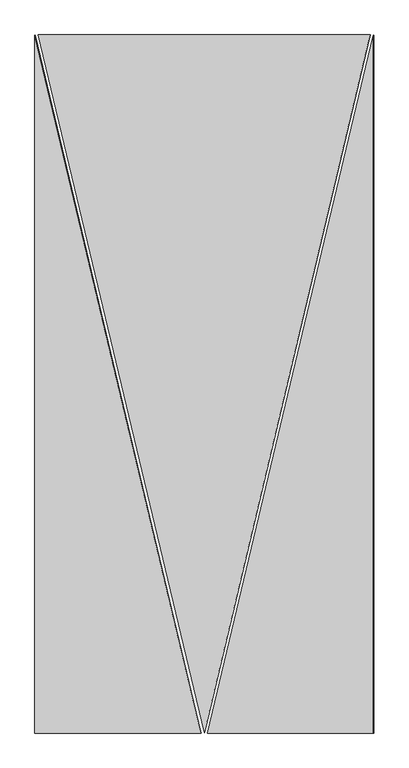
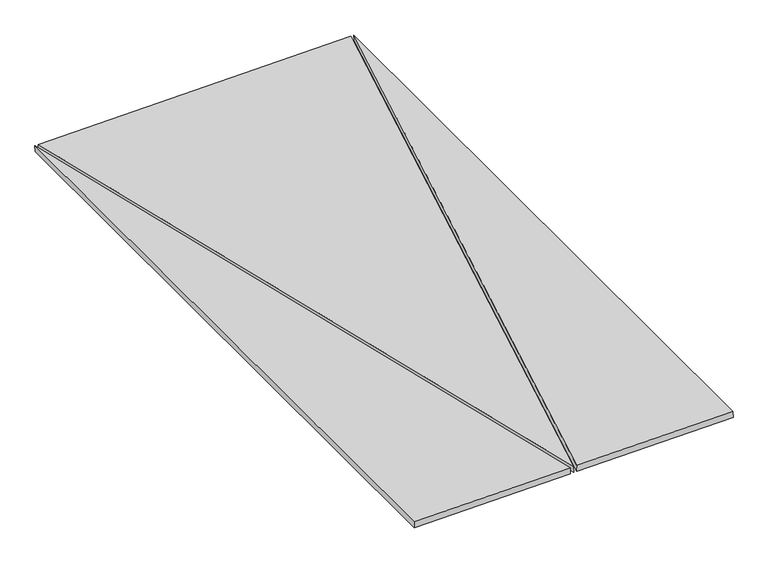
"""IFC4 building model written with IfcOpenShell, lengths in millimetres: proxy geometry, panel sufitowy 6 : panel sufitowy 6."""

from ifc_helpers import new_model, si_unit, frame, origin, place, context, project, spatial, polyline, outline, extrude, source, transform, mapped, element, save


def generic_models_dc20eb05(model_context):
    return source(origin(), model_context, "Body", "SweptSolid", [
        extrude(outline(polyline([(-900.9098917, -1e-07), (1235.4098448, 0.0), (1006.1909889, -962.7191946), (-900.9098917, -1e-07)])), frame((551.8753506, -1457.4151922, 1194.2927704), z_axis=(-0.017452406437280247, 0.0, 0.9998476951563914), x_axis=(-0.23158525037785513, 0.9728062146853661, -0.0040423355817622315)), (0.0, 0.0, 1.0), 20.0),
        extrude(outline(polyline([(-127.5, 0.0), (-622.5, 0.0), (-127.5, 2079.0), (-127.5, 0.0)])), frame((1392.6369636, -2335.0, 1208.968319), z_axis=(-0.01745240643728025, 0.0, 0.9998476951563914), x_axis=(0.9998476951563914, 0.0, 0.01745240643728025)), (0.0, 0.0, 1.0), 20.0),
        extrude(outline(polyline([(-127.5, 0.0), (-127.5, -2079.0), (-622.5, 0.0), (-127.5, 0.0)])), frame((127.8296293, -2335.0, 1186.8910248), z_axis=(-0.01745240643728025, 0.0, 0.9998476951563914), x_axis=(-0.9998476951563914, 0.0, -0.01745240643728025)), (0.0, 0.0, 1.0), 20.0),
    ])


if __name__ == "__main__":
    model = new_model("IFC4")
    model_context = context("Model", 3, world=origin())
    ifc_project = project(units=[si_unit("LENGTHUNIT", "METRE", prefix="MILLI")], contexts=[model_context])
    site = spatial("IfcSite", under=ifc_project)
    building = spatial("IfcBuilding", under=site)
    placement = place(None, origin())
    generic_models_shape = generic_models_dc20eb05(model_context)
    element("IfcBuildingElementProxy", 1, Name="panel sufitowy 6 : panel sufitowy 6", ObjectType="panel sufitowy 6 : panel sufitowy 6", at=placement, inside=building, context=model_context, shape_type="MappedRepresentation", body=[
        mapped(generic_models_shape, transform((0.0, 0.0, 0.0), x_axis=(1.0, 0.0, 0.0), y_axis=(0.0, 1.0, 0.0), z_axis=(0.0, 0.0, 1.0))),
    ])
    save(model, "model.ifc")
